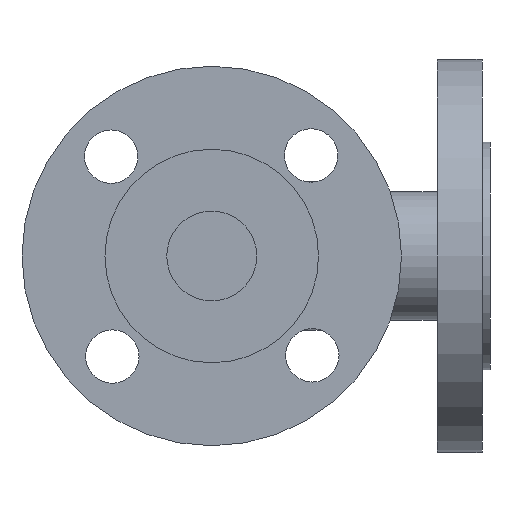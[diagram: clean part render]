
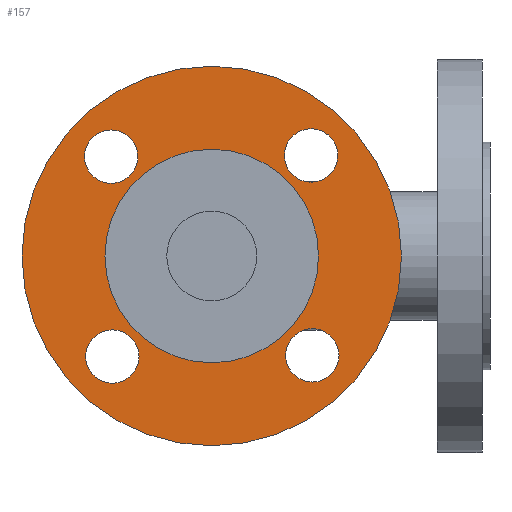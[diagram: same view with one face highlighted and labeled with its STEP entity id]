
A CAD part, front view. The second image highlights one B-rep face of the part: STEP entity #157.
In plain terms, the highlighted planar face has unit normal (0, -1, 0).
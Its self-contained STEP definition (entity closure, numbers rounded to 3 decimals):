
#157=ADVANCED_FACE('',(#754,#755,#756,#757,#758,#759),#753,.T.);
#753=PLANE('',#2470);
#754=FACE_OUTER_BOUND('',#2471,.T.);
#755=FACE_BOUND('',#2472,.T.);
#756=FACE_BOUND('',#2473,.T.);
#757=FACE_BOUND('',#2474,.T.);
#758=FACE_BOUND('',#2475,.T.);
#759=FACE_BOUND('',#2476,.T.);
#2467=CARTESIAN_POINT('',(-126.913,-130.,77.5));
#2468=DIRECTION('',(0.,-1.,0.));
#2469=DIRECTION('',(0.,0.,-1.));
#2470=AXIS2_PLACEMENT_3D('',#2467,#2468,#2469);
#2471=EDGE_LOOP('',(#4703,#4704));
#2472=EDGE_LOOP('',(#4705,#4706));
#2473=EDGE_LOOP('',(#4707,#4708,#4709));
#2474=EDGE_LOOP('',(#4710,#4711));
#2475=EDGE_LOOP('',(#4712,#4713));
#2476=EDGE_LOOP('',(#4714,#4715,#4716));
#4703=ORIENTED_EDGE('',*,*,#5514,.F.);
#4704=ORIENTED_EDGE('',*,*,#5515,.F.);
#4705=ORIENTED_EDGE('',*,*,#5516,.F.);
#4706=ORIENTED_EDGE('',*,*,#5517,.F.);
#4707=ORIENTED_EDGE('',*,*,#5518,.F.);
#4708=ORIENTED_EDGE('',*,*,#5519,.F.);
#4709=ORIENTED_EDGE('',*,*,#5520,.F.);
#4710=ORIENTED_EDGE('',*,*,#5521,.F.);
#4711=ORIENTED_EDGE('',*,*,#5522,.F.);
#4712=ORIENTED_EDGE('',*,*,#5523,.T.);
#4713=ORIENTED_EDGE('',*,*,#5524,.T.);
#4714=ORIENTED_EDGE('',*,*,#5525,.F.);
#4715=ORIENTED_EDGE('',*,*,#5526,.F.);
#4716=ORIENTED_EDGE('',*,*,#5527,.F.);
#5514=EDGE_CURVE('',#6679,#6680,#6681,.T.);
#5515=EDGE_CURVE('',#6680,#6679,#6687,.T.);
#5516=EDGE_CURVE('',#6693,#6694,#6695,.T.);
#5517=EDGE_CURVE('',#6694,#6693,#6701,.T.);
#5518=EDGE_CURVE('',#6707,#6708,#6709,.T.);
#5519=EDGE_CURVE('',#6715,#6707,#6716,.T.);
#5520=EDGE_CURVE('',#6708,#6715,#6722,.T.);
#5521=EDGE_CURVE('',#6728,#6729,#6730,.T.);
#5522=EDGE_CURVE('',#6729,#6728,#6736,.T.);
#5523=EDGE_CURVE('',#6742,#6743,#6744,.T.);
#5524=EDGE_CURVE('',#6743,#6742,#6750,.T.);
#5525=EDGE_CURVE('',#6756,#6757,#6758,.T.);
#5526=EDGE_CURVE('',#6764,#6756,#6765,.T.);
#5527=EDGE_CURVE('',#6757,#6764,#6771,.T.);
#6679=VERTEX_POINT('',#9461);
#6680=VERTEX_POINT('',#9462);
#6681=CIRCLE('',#9466,67.5);
#6687=CIRCLE('',#9470,67.5);
#6693=VERTEX_POINT('',#9471);
#6694=VERTEX_POINT('',#9472);
#6695=CIRCLE('',#9476,9.5);
#6701=CIRCLE('',#9480,9.5);
#6707=VERTEX_POINT('',#9481);
#6708=VERTEX_POINT('',#9482);
#6709=CIRCLE('',#9486,9.5);
#6715=VERTEX_POINT('',#9487);
#6716=CIRCLE('',#9491,9.5);
#6722=CIRCLE('',#9495,9.5);
#6728=VERTEX_POINT('',#9496);
#6729=VERTEX_POINT('',#9497);
#6730=CIRCLE('',#9501,9.5);
#6736=CIRCLE('',#9505,9.5);
#6742=VERTEX_POINT('',#9506);
#6743=VERTEX_POINT('',#9507);
#6744=CIRCLE('',#9511,38.);
#6750=CIRCLE('',#9515,38.);
#6756=VERTEX_POINT('',#9516);
#6757=VERTEX_POINT('',#9517);
#6758=CIRCLE('',#9521,9.5);
#6764=VERTEX_POINT('',#9522);
#6765=CIRCLE('',#9526,9.5);
#6771=CIRCLE('',#9530,9.5);
#9461=CARTESIAN_POINT('',(0.,-130.,-67.5));
#9462=CARTESIAN_POINT('',(0.,-130.,67.5));
#9463=CARTESIAN_POINT('',(0.,-130.,0.));
#9464=DIRECTION('',(0.,1.,0.));
#9465=DIRECTION('',(0.,0.,1.));
#9466=AXIS2_PLACEMENT_3D('',#9463,#9464,#9465);
#9467=CARTESIAN_POINT('',(0.,-130.,0.));
#9468=DIRECTION('',(0.,1.,0.));
#9469=DIRECTION('',(0.,0.,1.));
#9470=AXIS2_PLACEMENT_3D('',#9467,#9468,#9469);
#9471=CARTESIAN_POINT('',(35.781,-130.,-44.855));
#9472=CARTESIAN_POINT('',(35.781,-130.,-25.855));
#9473=CARTESIAN_POINT('',(35.781,-130.,-35.355));
#9474=DIRECTION('',(0.,-1.,0.));
#9475=DIRECTION('',(0.,0.,1.));
#9476=AXIS2_PLACEMENT_3D('',#9473,#9474,#9475);
#9477=CARTESIAN_POINT('',(35.781,-130.,-35.355));
#9478=DIRECTION('',(0.,-1.,0.));
#9479=DIRECTION('',(0.,0.,1.));
#9480=AXIS2_PLACEMENT_3D('',#9477,#9478,#9479);
#9481=CARTESIAN_POINT('',(35.355,-130.,45.281));
#9482=CARTESIAN_POINT('',(25.855,-130.,35.781));
#9483=CARTESIAN_POINT('',(35.355,-130.,35.781));
#9484=DIRECTION('',(0.,-1.,0.));
#9485=DIRECTION('',(-1.,0.,0.));
#9486=AXIS2_PLACEMENT_3D('',#9483,#9484,#9485);
#9487=CARTESIAN_POINT('',(35.356,-130.,26.281));
#9488=CARTESIAN_POINT('',(35.355,-130.,35.781));
#9489=DIRECTION('',(0.,-1.,0.));
#9490=DIRECTION('',(-1.,0.,0.));
#9491=AXIS2_PLACEMENT_3D('',#9488,#9489,#9490);
#9492=CARTESIAN_POINT('',(35.355,-130.,35.781));
#9493=DIRECTION('',(0.,-1.,0.));
#9494=DIRECTION('',(-1.,0.,0.));
#9495=AXIS2_PLACEMENT_3D('',#9492,#9493,#9494);
#9496=CARTESIAN_POINT('',(-35.781,-130.,44.855));
#9497=CARTESIAN_POINT('',(-35.781,-130.,25.855));
#9498=CARTESIAN_POINT('',(-35.781,-130.,35.355));
#9499=DIRECTION('',(0.,-1.,0.));
#9500=DIRECTION('',(0.,0.,-1.));
#9501=AXIS2_PLACEMENT_3D('',#9498,#9499,#9500);
#9502=CARTESIAN_POINT('',(-35.781,-130.,35.355));
#9503=DIRECTION('',(0.,-1.,0.));
#9504=DIRECTION('',(0.,0.,-1.));
#9505=AXIS2_PLACEMENT_3D('',#9502,#9503,#9504);
#9506=CARTESIAN_POINT('',(0.,-130.,38.));
#9507=CARTESIAN_POINT('',(0.,-130.,-38.));
#9508=CARTESIAN_POINT('',(0.,-130.,0.));
#9509=DIRECTION('',(0.,1.,0.));
#9510=DIRECTION('',(0.,0.,1.));
#9511=AXIS2_PLACEMENT_3D('',#9508,#9509,#9510);
#9512=CARTESIAN_POINT('',(0.,-130.,0.));
#9513=DIRECTION('',(0.,1.,0.));
#9514=DIRECTION('',(0.,0.,1.));
#9515=AXIS2_PLACEMENT_3D('',#9512,#9513,#9514);
#9516=CARTESIAN_POINT('',(-35.356,-130.,-45.281));
#9517=CARTESIAN_POINT('',(-25.855,-130.,-35.781));
#9518=CARTESIAN_POINT('',(-35.355,-130.,-35.781));
#9519=DIRECTION('',(0.,-1.,0.));
#9520=DIRECTION('',(1.,0.,0.));
#9521=AXIS2_PLACEMENT_3D('',#9518,#9519,#9520);
#9522=CARTESIAN_POINT('',(-35.355,-130.,-26.281));
#9523=CARTESIAN_POINT('',(-35.355,-130.,-35.781));
#9524=DIRECTION('',(0.,-1.,0.));
#9525=DIRECTION('',(1.,0.,0.));
#9526=AXIS2_PLACEMENT_3D('',#9523,#9524,#9525);
#9527=CARTESIAN_POINT('',(-35.355,-130.,-35.781));
#9528=DIRECTION('',(0.,-1.,0.));
#9529=DIRECTION('',(1.,0.,0.));
#9530=AXIS2_PLACEMENT_3D('',#9527,#9528,#9529);
